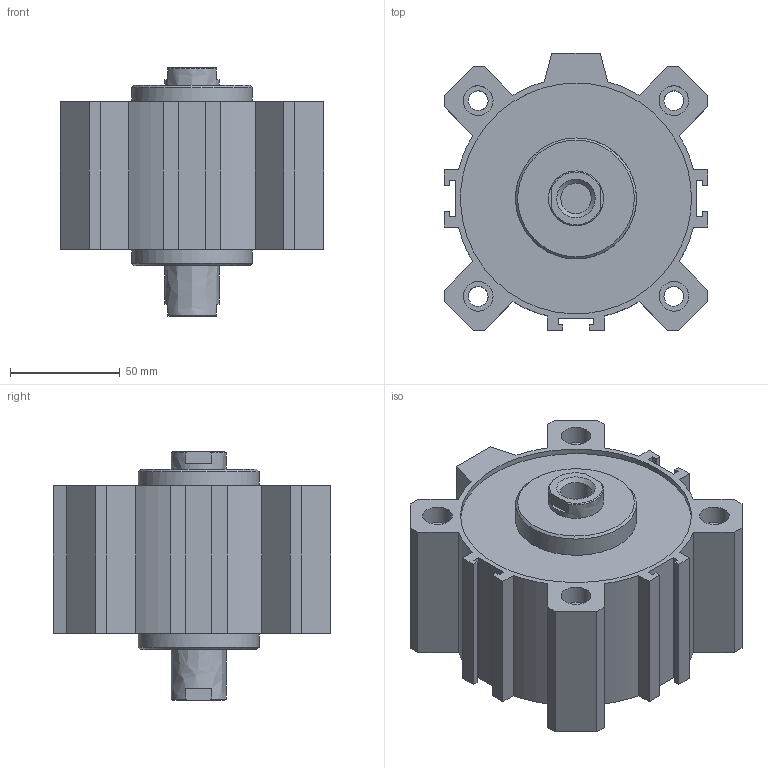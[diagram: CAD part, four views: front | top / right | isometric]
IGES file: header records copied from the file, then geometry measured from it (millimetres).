
Global section: file name: 1514_100_0015; native system: Autodesk Inventor 2014; preprocessor: unknown; author: A. Manieri; date: 20160824.163136; units: millimetre
Bounding box: 120 x 126 x 113 mm (x, y, z)
Volume: 686681.3 mm3; surface area: 137581.1 mm2
Topology: 2 solids, 2 shells, 132 faces, 346 edges, 238 vertices
Faces by surface type: bspline 132
